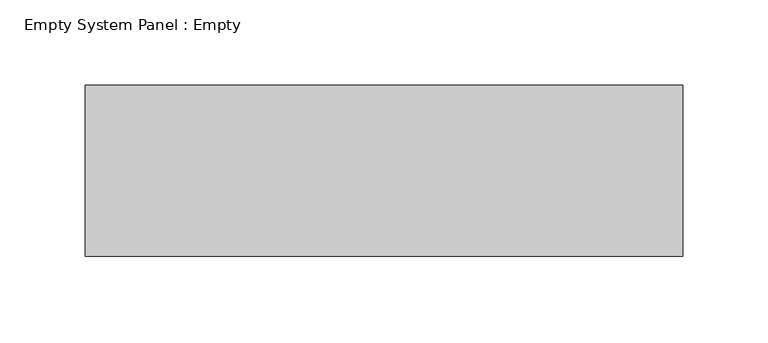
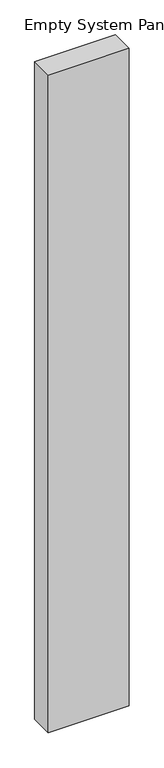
"""IFC4 building model written with IfcOpenShell, lengths in millimetres: plate geometry, Empty System Panel : Empty."""

from ifc_helpers import new_model, si_unit, origin, origin_with_axes, place, context, project, spatial, polyline, outline, extrude, source, transform, mapped, element, save


def empty_system_panel_empty_88756bee(model_context):
    return source(origin(), model_context, "Body", "SweptSolid", [
        extrude(outline(polyline([(174.7182541, -50.0), (-174.7182541, -50.0), (-174.7182541, 50.0), (174.7182541, 50.0), (174.7182541, -50.0)])), origin_with_axes(), (0.0, 0.0, 1.0), 3000.0),
    ])


if __name__ == "__main__":
    model = new_model("IFC4")
    model_context = context("Model", 3, world=origin())
    ifc_project = project(units=[si_unit("LENGTHUNIT", "METRE", prefix="MILLI")], contexts=[model_context])
    site = spatial("IfcSite", under=ifc_project)
    building = spatial("IfcBuilding", under=site)
    placement = place(None, origin())
    empty_system_panel_empty_shape = empty_system_panel_empty_88756bee(model_context)
    element("IfcPlate", 1, ObjectType="Empty System Panel : Empty", at=placement, inside=building, context=model_context, shape_type="MappedRepresentation", body=[
        mapped(empty_system_panel_empty_shape, transform((0.0, 0.0, 0.0), x_axis=(1.0, 0.0, 0.0), y_axis=(0.0, 1.0, 0.0), z_axis=(0.0, 0.0, 1.0))),
    ])
    save(model, "model.ifc")
